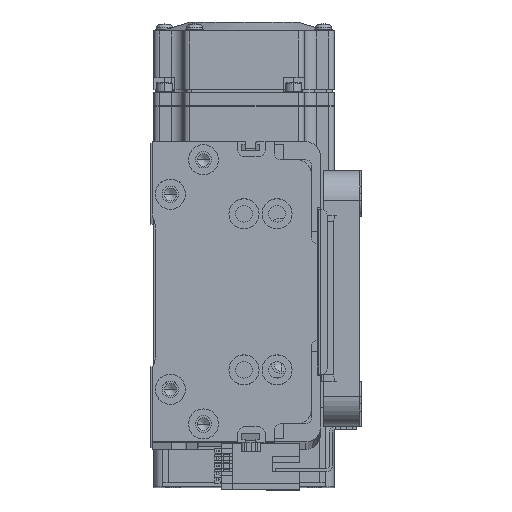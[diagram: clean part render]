
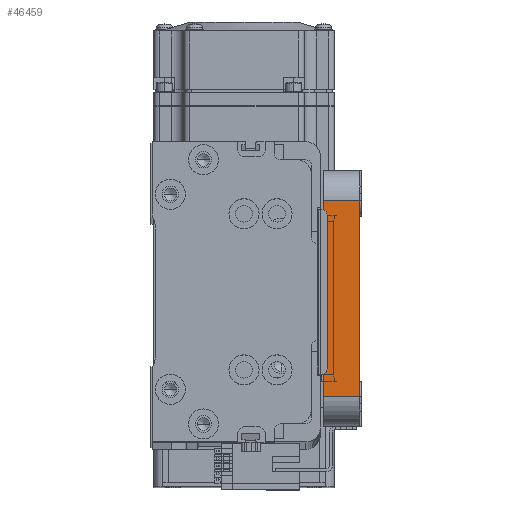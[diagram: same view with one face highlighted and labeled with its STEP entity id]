
A CAD part, top view. The second image highlights one B-rep face of the part: STEP entity #46459.
In plain terms, the highlighted planar face has unit normal (0, 0, 1) as drawn and (-1, 0, 0) by its records, which use the part's own axes.
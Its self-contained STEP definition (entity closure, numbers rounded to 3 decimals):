
#213 = EDGE_CURVE ( 'NONE', #67788, #36273, #61307, .T. ) ;
#1341 = CARTESIAN_POINT ( 'NONE',  ( -55., -32.5, 0. ) ) ;
#6698 = FACE_OUTER_BOUND ( 'NONE', #69330, .T. ) ;
#8132 = EDGE_CURVE ( 'NONE', #55311, #67788, #15612, .T. ) ;
#9852 = CARTESIAN_POINT ( 'NONE',  ( -55., -42.5, 12. ) ) ;
#11539 = CARTESIAN_POINT ( 'NONE',  ( -55., -32.5, 12. ) ) ;
#13673 = ORIENTED_EDGE ( 'NONE', *, *, #213, .T. ) ;
#15436 = DIRECTION ( 'NONE',  ( 0., 0., -1. ) ) ;
#15612 = LINE ( 'NONE', #65249, #30240 ) ;
#17936 = LINE ( 'NONE', #63389, #67141 ) ;
#18515 = CARTESIAN_POINT ( 'NONE',  ( -55., -32.5, 12. ) ) ;
#19013 = VECTOR ( 'NONE', #50101, 1000. ) ;
#22904 = CARTESIAN_POINT ( 'NONE',  ( -55., 32.5, 12. ) ) ;
#23088 = EDGE_CURVE ( 'NONE', #55150, #55311, #25296, .T. ) ;
#24853 = DIRECTION ( 'NONE',  ( 0., -1., 0. ) ) ;
#25296 = LINE ( 'NONE', #22904, #67568 ) ;
#26713 = DIRECTION ( 'NONE',  ( 0., -1., 0. ) ) ;
#30240 = VECTOR ( 'NONE', #26713, 1000. ) ;
#35126 = ORIENTED_EDGE ( 'NONE', *, *, #23088, .T. ) ;
#35792 = EDGE_CURVE ( 'NONE', #55150, #36273, #17936, .T. ) ;
#36273 = VERTEX_POINT ( 'NONE', #18515 ) ;
#46459 = ADVANCED_FACE ( 'NONE', ( #6698 ), #70433, .F. ) ;
#48447 = DIRECTION ( 'NONE',  ( 1., 0., 0. ) ) ;
#50101 = DIRECTION ( 'NONE',  ( 0., 0., 1. ) ) ;
#53000 = ORIENTED_EDGE ( 'NONE', *, *, #8132, .T. ) ;
#55150 = VERTEX_POINT ( 'NONE', #61296 ) ;
#55311 = VERTEX_POINT ( 'NONE', #57643 ) ;
#57643 = CARTESIAN_POINT ( 'NONE',  ( -55., 32.5, 0. ) ) ;
#61296 = CARTESIAN_POINT ( 'NONE',  ( -55., 32.5, 12. ) ) ;
#61307 = LINE ( 'NONE', #11539, #19013 ) ;
#61453 = DIRECTION ( 'NONE',  ( 0., 0., -1. ) ) ;
#63389 = CARTESIAN_POINT ( 'NONE',  ( -55., -42.5, 12. ) ) ;
#65249 = CARTESIAN_POINT ( 'NONE',  ( -55., -42.5, 0. ) ) ;
#67141 = VECTOR ( 'NONE', #24853, 1000. ) ;
#67568 = VECTOR ( 'NONE', #61453, 1000. ) ;
#67788 = VERTEX_POINT ( 'NONE', #1341 ) ;
#69330 = EDGE_LOOP ( 'NONE', ( #53000, #13673, #71422, #35126 ) ) ;
#69375 = AXIS2_PLACEMENT_3D ( 'NONE', #9852, #48447, #15436 ) ;
#70433 = PLANE ( 'NONE',  #69375 ) ;
#71422 = ORIENTED_EDGE ( 'NONE', *, *, #35792, .F. ) ;
